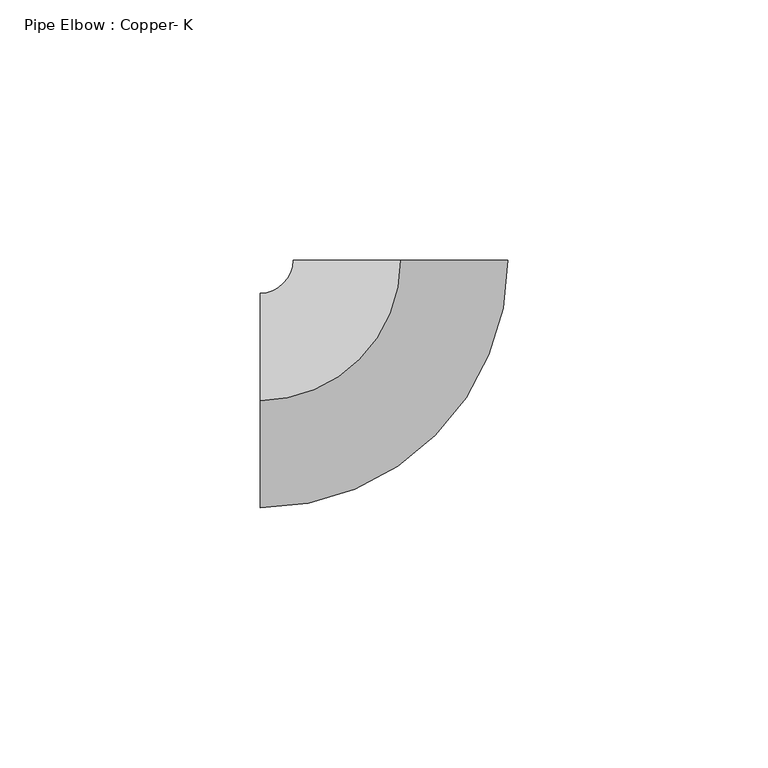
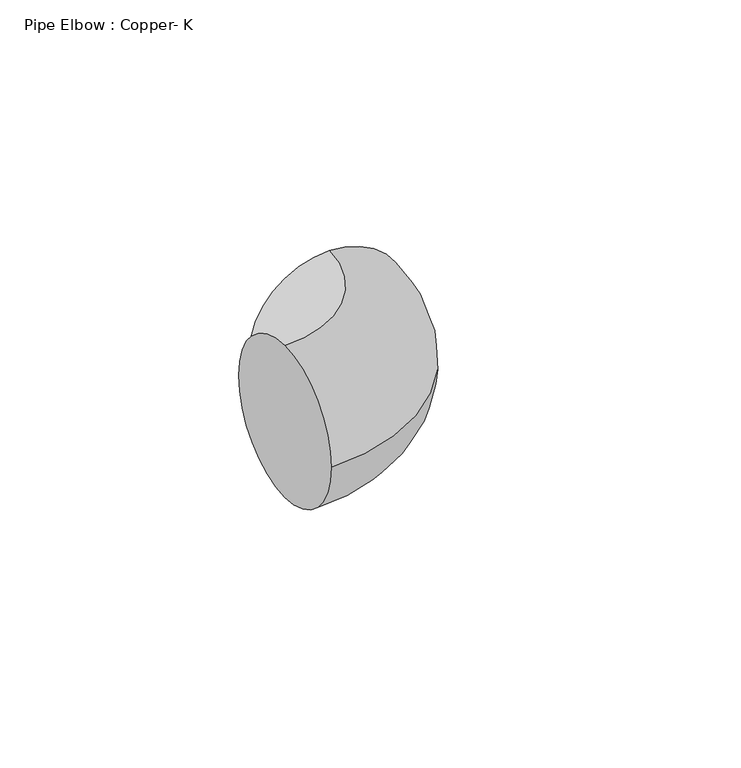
"""IFC4 building model written with IfcOpenShell, lengths in millimetres: pipe fitting geometry, Pipe Elbow : Copper- K."""

from ifc_helpers import new_model, si_unit, point, frame, origin, place, context, project, spatial, circle_curve, ellipse_curve, trimmed, source, transform, mapped, element, save
from ifc_brep_helpers import plane_surface, revolved_surface, advanced_brep


def pipe_elbow_copper_k_45e90dba(model_context):
    return source(origin(), model_context, "Body", "AdvancedBrep", [
        advanced_brep(
        [(-26.9887822, 0.0, 20.6375), (-26.9887822, 20.6375, 0.0), (-26.9887822, 0.0, -20.6375), (-26.9887822, -20.6375, 0.0), (-0.0012822, 26.9887822, 20.6375), (20.6362178, 26.9897626, 0.0), (-0.0012822, 26.9887822, -20.6375), (-20.6387822, 26.9878017, 0.0)],
        [
            (0, 1, circle_curve(frame((-26.9887822, 0.0, 0.0), z_axis=(-1.0, 0.0, 0.0), x_axis=(0.0, 1.0, 0.0)), 20.6375)),
            (1, 2, circle_curve(frame((-26.9887822, 0.0, 0.0), z_axis=(-1.0, 0.0, 0.0), x_axis=(0.0, 1.0, 0.0)), 20.6375)),
            (2, 3, circle_curve(frame((-26.9887822, 0.0, 0.0), z_axis=(-1.0, 0.0, 0.0), x_axis=(0.0, 1.0, 0.0)), 20.6375)),
            (3, 0, circle_curve(frame((-26.9887822, 0.0, 0.0), z_axis=(-1.0, 0.0, 0.0), x_axis=(0.0, 1.0, 0.0)), 20.6375)),
            (4, 5, circle_curve(frame((-0.0012822, 26.9887822, 0.0), z_axis=(-4.750910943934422e-05, 0.9999999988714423, 0.0), x_axis=(-0.9999999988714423, -4.750910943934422e-05, 0.0)), 20.6375)),
            (5, 6, circle_curve(frame((-0.0012822, 26.9887822, 0.0), z_axis=(-4.750910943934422e-05, 0.9999999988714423, 0.0), x_axis=(-0.9999999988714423, -4.750910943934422e-05, 0.0)), 20.6375)),
            (6, 7, circle_curve(frame((-0.0012822, 26.9887822, 0.0), z_axis=(-4.750910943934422e-05, 0.9999999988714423, 0.0), x_axis=(-0.9999999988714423, -4.750910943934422e-05, 0.0)), 20.6375)),
            (7, 4, circle_curve(frame((-0.0012822, 26.9887822, 0.0), z_axis=(-4.750910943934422e-05, 0.9999999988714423, 0.0), x_axis=(-0.9999999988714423, -4.750910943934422e-05, 0.0)), 20.6375)),
            (7, 1, circle_curve(frame((-26.9887822, 26.9875, 0.0), z_axis=(0.0, 0.0, -1.0), x_axis=(0.0, -1.0, 0.0)), 6.35)),
            (0, 4, circle_curve(frame((-26.9887822, 26.9875, 20.6375), z_axis=(0.0, 0.0, 1.0), x_axis=(0.0, -1.0, 0.0)), 26.9875)),
            (6, 2, circle_curve(frame((-26.9887822, 26.9875, -20.6375), z_axis=(0.0, 0.0, -1.0), x_axis=(0.0, -1.0, 0.0)), 26.9875)),
            (5, 3, circle_curve(frame((-26.9887822, 26.9875, 0.0), z_axis=(0.0, 0.0, -1.0), x_axis=(0.0, -1.0, 0.0)), 47.625)),
        ],
        [
            plane_surface(frame((-26.9887822, 0.0, 0.0), z_axis=(-1.0, 0.0, 0.0), x_axis=(0.0, 0.0, 1.0))),
            plane_surface(frame((-0.0012822, 26.9887822, 0.0), z_axis=(-4.750910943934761e-05, 0.9999999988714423, 0.0), x_axis=(0.0, 0.0, 1.0))),
            revolved_surface(trimmed(ellipse_curve(frame((-26.9887822, 0.0, 0.0), z_axis=(-1.0, 0.0, 0.0), x_axis=(0.0, 1.0, 0.0)), 20.6375, 20.6375), [point((-26.9887822, 0.0, 20.6375))], [point((-26.9887822, 20.6375, 0.0))], True, "CARTESIAN"), (-26.9887822, 26.9875, 0.0), (0.0, 0.0, 1.0)),
            revolved_surface(trimmed(ellipse_curve(frame((-26.9887822, 0.0, 0.0), z_axis=(-1.0, 0.0, 0.0), x_axis=(0.0, 1.0, 0.0)), 20.6375, 20.6375), [point((-26.9887822, 20.6375, 0.0))], [point((-26.9887822, 0.0, -20.6375))], True, "CARTESIAN"), (-26.9887822, 26.9875, 0.0), (0.0, 0.0, 1.0)),
            revolved_surface(trimmed(ellipse_curve(frame((-26.9887822, 0.0, 0.0), z_axis=(-1.0, 0.0, 0.0), x_axis=(0.0, 1.0, 0.0)), 20.6375, 20.6375), [point((-26.9887822, 0.0, -20.6375))], [point((-26.9887822, -20.6375, 0.0))], True, "CARTESIAN"), (-26.9887822, 26.9875, 0.0), (0.0, 0.0, 1.0)),
            revolved_surface(trimmed(ellipse_curve(frame((-26.9887822, 0.0, 0.0), z_axis=(-1.0, 0.0, 0.0), x_axis=(0.0, 1.0, 0.0)), 20.6375, 20.6375), [point((-26.9887822, -20.6375, 0.0))], [point((-26.9887822, 0.0, 20.6375))], True, "CARTESIAN"), (-26.9887822, 26.9875, 0.0), (0.0, 0.0, 1.0)),
        ],
        [
            (0, [[1, 2, 3, 4]]),
            (1, [[5, 6, 7, 8]]),
            (2, [[9, -1, 10, -8]]),
            (3, [[11, -2, -9, -7]]),
            (4, [[12, -3, -11, -6]]),
            (5, [[-10, -4, -12, -5]]),
        ],
    ),
        advanced_brep(
        [(-26.9887822, 0.0, 20.6375), (-26.9887822, 20.6375, 0.0), (-26.9887822, 0.0, -20.6375), (-26.9887822, -20.6375, 0.0), (-0.0012822, 26.9887822, 20.6375), (20.6362178, 26.9897626, 0.0), (-0.0012822, 26.9887822, -20.6375), (-20.6387822, 26.9878017, 0.0)],
        [
            (0, 1, circle_curve(frame((-26.9887822, 0.0, 0.0), z_axis=(-1.0, 0.0, 0.0), x_axis=(0.0, 1.0, 0.0)), 20.6375)),
            (1, 2, circle_curve(frame((-26.9887822, 0.0, 0.0), z_axis=(-1.0, 0.0, 0.0), x_axis=(0.0, 1.0, 0.0)), 20.6375)),
            (2, 3, circle_curve(frame((-26.9887822, 0.0, 0.0), z_axis=(-1.0, 0.0, 0.0), x_axis=(0.0, 1.0, 0.0)), 20.6375)),
            (3, 0, circle_curve(frame((-26.9887822, 0.0, 0.0), z_axis=(-1.0, 0.0, 0.0), x_axis=(0.0, 1.0, 0.0)), 20.6375)),
            (4, 5, circle_curve(frame((-0.0012822, 26.9887822, 0.0), z_axis=(-4.750910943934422e-05, 0.9999999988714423, 0.0), x_axis=(-0.9999999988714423, -4.750910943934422e-05, 0.0)), 20.6375)),
            (5, 6, circle_curve(frame((-0.0012822, 26.9887822, 0.0), z_axis=(-4.750910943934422e-05, 0.9999999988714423, 0.0), x_axis=(-0.9999999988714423, -4.750910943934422e-05, 0.0)), 20.6375)),
            (6, 7, circle_curve(frame((-0.0012822, 26.9887822, 0.0), z_axis=(-4.750910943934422e-05, 0.9999999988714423, 0.0), x_axis=(-0.9999999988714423, -4.750910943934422e-05, 0.0)), 20.6375)),
            (7, 4, circle_curve(frame((-0.0012822, 26.9887822, 0.0), z_axis=(-4.750910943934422e-05, 0.9999999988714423, 0.0), x_axis=(-0.9999999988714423, -4.750910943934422e-05, 0.0)), 20.6375)),
            (7, 1, circle_curve(frame((-26.9887822, 26.9875, 0.0), z_axis=(0.0, 0.0, -1.0), x_axis=(0.0, -1.0, 0.0)), 6.35)),
            (0, 4, circle_curve(frame((-26.9887822, 26.9875, 20.6375), z_axis=(0.0, 0.0, 1.0), x_axis=(0.0, -1.0, 0.0)), 26.9875)),
            (6, 2, circle_curve(frame((-26.9887822, 26.9875, -20.6375), z_axis=(0.0, 0.0, -1.0), x_axis=(0.0, -1.0, 0.0)), 26.9875)),
            (5, 3, circle_curve(frame((-26.9887822, 26.9875, 0.0), z_axis=(0.0, 0.0, -1.0), x_axis=(0.0, -1.0, 0.0)), 47.625)),
        ],
        [
            plane_surface(frame((-26.9887822, 0.0, 0.0), z_axis=(-1.0, 0.0, 0.0), x_axis=(0.0, 0.0, 1.0))),
            plane_surface(frame((-0.0012822, 26.9887822, 0.0), z_axis=(-4.750910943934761e-05, 0.9999999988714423, 0.0), x_axis=(0.0, 0.0, 1.0))),
            revolved_surface(trimmed(ellipse_curve(frame((-26.9887822, 0.0, 0.0), z_axis=(-1.0, 0.0, 0.0), x_axis=(0.0, 1.0, 0.0)), 20.6375, 20.6375), [point((-26.9887822, 0.0, 20.6375))], [point((-26.9887822, 20.6375, 0.0))], True, "CARTESIAN"), (-26.9887822, 26.9875, 0.0), (0.0, 0.0, 1.0)),
            revolved_surface(trimmed(ellipse_curve(frame((-26.9887822, 0.0, 0.0), z_axis=(-1.0, 0.0, 0.0), x_axis=(0.0, 1.0, 0.0)), 20.6375, 20.6375), [point((-26.9887822, 20.6375, 0.0))], [point((-26.9887822, 0.0, -20.6375))], True, "CARTESIAN"), (-26.9887822, 26.9875, 0.0), (0.0, 0.0, 1.0)),
            revolved_surface(trimmed(ellipse_curve(frame((-26.9887822, 0.0, 0.0), z_axis=(-1.0, 0.0, 0.0), x_axis=(0.0, 1.0, 0.0)), 20.6375, 20.6375), [point((-26.9887822, 0.0, -20.6375))], [point((-26.9887822, -20.6375, 0.0))], True, "CARTESIAN"), (-26.9887822, 26.9875, 0.0), (0.0, 0.0, 1.0)),
            revolved_surface(trimmed(ellipse_curve(frame((-26.9887822, 0.0, 0.0), z_axis=(-1.0, 0.0, 0.0), x_axis=(0.0, 1.0, 0.0)), 20.6375, 20.6375), [point((-26.9887822, -20.6375, 0.0))], [point((-26.9887822, 0.0, 20.6375))], True, "CARTESIAN"), (-26.9887822, 26.9875, 0.0), (0.0, 0.0, 1.0)),
        ],
        [
            (0, [[1, 2, 3, 4]]),
            (1, [[5, 6, 7, 8]]),
            (2, [[9, -1, 10, -8]]),
            (3, [[11, -2, -9, -7]]),
            (4, [[12, -3, -11, -6]]),
            (5, [[-10, -4, -12, -5]]),
        ],
    ),
    ])


if __name__ == "__main__":
    model = new_model("IFC4")
    model_context = context("Model", 3, world=origin())
    ifc_project = project(units=[si_unit("LENGTHUNIT", "METRE", prefix="MILLI")], contexts=[model_context])
    site = spatial("IfcSite", under=ifc_project)
    building = spatial("IfcBuilding", under=site)
    placement = place(None, origin())
    pipe_elbow_copper_k_shape = pipe_elbow_copper_k_45e90dba(model_context)
    element("IfcPipeFitting", 1, ObjectType="Pipe Elbow : Copper- K", at=placement, inside=building, context=model_context, shape_type="MappedRepresentation", body=[
        mapped(pipe_elbow_copper_k_shape, transform((0.0, 0.0, 0.0), x_axis=(1.0, 0.0, 0.0), y_axis=(0.0, 1.0, 0.0), z_axis=(0.0, 0.0, 1.0))),
    ])
    save(model, "model.ifc")
